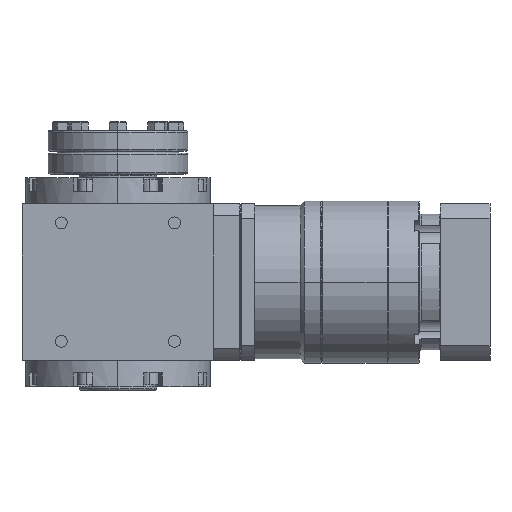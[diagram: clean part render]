
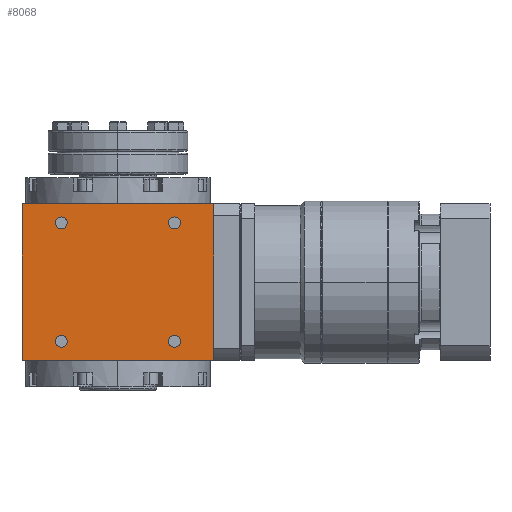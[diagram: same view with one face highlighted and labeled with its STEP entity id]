
A CAD part, left-side view. The second image highlights one B-rep face of the part: STEP entity #8068.
In plain terms, the highlighted planar face has unit normal (-1, 0, 0).
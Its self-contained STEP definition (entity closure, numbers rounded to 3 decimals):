
#47 = CARTESIAN_POINT ( 'NONE',  ( -55., 32.5, -34. ) ) ;
#111 = VECTOR ( 'NONE', #4254, 1000. ) ;
#688 = FACE_OUTER_BOUND ( 'NONE', #15133, .T. ) ;
#832 = DIRECTION ( 'NONE',  ( 0., -1., 0. ) ) ;
#1060 = DIRECTION ( 'NONE',  ( 0., -1., 0. ) ) ;
#1573 = LINE ( 'NONE', #9544, #111 ) ;
#1643 = EDGE_CURVE ( 'NONE', #4069, #16284, #7818, .T. ) ;
#1693 = VERTEX_POINT ( 'NONE', #6505 ) ;
#1739 = AXIS2_PLACEMENT_3D ( 'NONE', #6563, #6740, #3974 ) ;
#1807 = EDGE_CURVE ( 'NONE', #7339, #13281, #1573, .T. ) ;
#1851 = CARTESIAN_POINT ( 'NONE',  ( -55., -35.9, 34. ) ) ;
#1866 = CIRCLE ( 'NONE', #12713, 3.4 ) ;
#1876 = AXIS2_PLACEMENT_3D ( 'NONE', #15755, #8969, #2247 ) ;
#2021 = AXIS2_PLACEMENT_3D ( 'NONE', #17052, #7579, #15982 ) ;
#2112 = CARTESIAN_POINT ( 'NONE',  ( -55., 55., -45. ) ) ;
#2125 = ORIENTED_EDGE ( 'NONE', *, *, #2411, .T. ) ;
#2142 = DIRECTION ( 'NONE',  ( 0., -1., 0. ) ) ;
#2247 = DIRECTION ( 'NONE',  ( 0., -1., 0. ) ) ;
#2285 = VERTEX_POINT ( 'NONE', #8505 ) ;
#2344 = AXIS2_PLACEMENT_3D ( 'NONE', #4922, #14401, #2142 ) ;
#2411 = EDGE_CURVE ( 'NONE', #1693, #15386, #11479, .T. ) ;
#3021 = CARTESIAN_POINT ( 'NONE',  ( -55., -55., -45. ) ) ;
#3192 = VERTEX_POINT ( 'NONE', #3441 ) ;
#3351 = EDGE_LOOP ( 'NONE', ( #4079, #13440 ) ) ;
#3441 = CARTESIAN_POINT ( 'NONE',  ( -55., 29.1, -34. ) ) ;
#3638 = EDGE_LOOP ( 'NONE', ( #12794, #7901 ) ) ;
#3974 = DIRECTION ( 'NONE',  ( 0., -1., 0. ) ) ;
#4069 = VERTEX_POINT ( 'NONE', #6075 ) ;
#4079 = ORIENTED_EDGE ( 'NONE', *, *, #14116, .T. ) ;
#4229 = DIRECTION ( 'NONE',  ( 1., 0., 0. ) ) ;
#4254 = DIRECTION ( 'NONE',  ( 0., -1., 0. ) ) ;
#4325 = ORIENTED_EDGE ( 'NONE', *, *, #4774, .T. ) ;
#4336 = AXIS2_PLACEMENT_3D ( 'NONE', #11032, #4229, #12272 ) ;
#4414 = CARTESIAN_POINT ( 'NONE',  ( -55., -35.9, -34. ) ) ;
#4483 = VECTOR ( 'NONE', #14318, 1000. ) ;
#4738 = CIRCLE ( 'NONE', #16446, 3.4 ) ;
#4774 = EDGE_CURVE ( 'NONE', #12561, #11442, #13194, .T. ) ;
#4808 = VECTOR ( 'NONE', #17216, 1000. ) ;
#4922 = CARTESIAN_POINT ( 'NONE',  ( -55., 32.5, 34. ) ) ;
#5129 = CARTESIAN_POINT ( 'NONE',  ( -55., 55., 45. ) ) ;
#5495 = DIRECTION ( 'NONE',  ( 1., 0., 0. ) ) ;
#5785 = DIRECTION ( 'NONE',  ( 0., 0., 1. ) ) ;
#6075 = CARTESIAN_POINT ( 'NONE',  ( -55., -29.1, 34. ) ) ;
#6198 = EDGE_CURVE ( 'NONE', #3192, #2285, #1866, .T. ) ;
#6313 = DIRECTION ( 'NONE',  ( 0., 0., 1. ) ) ;
#6449 = EDGE_CURVE ( 'NONE', #2285, #3192, #4738, .T. ) ;
#6505 = CARTESIAN_POINT ( 'NONE',  ( -55., 29.1, 34. ) ) ;
#6563 = CARTESIAN_POINT ( 'NONE',  ( -55., -32.5, 34. ) ) ;
#6653 = ORIENTED_EDGE ( 'NONE', *, *, #8628, .T. ) ;
#6740 = DIRECTION ( 'NONE',  ( 1., 0., 0. ) ) ;
#7144 = AXIS2_PLACEMENT_3D ( 'NONE', #2112, #9094, #6313 ) ;
#7339 = VERTEX_POINT ( 'NONE', #5129 ) ;
#7417 = LINE ( 'NONE', #7519, #4483 ) ;
#7484 = CARTESIAN_POINT ( 'NONE',  ( -55., -55., 45. ) ) ;
#7519 = CARTESIAN_POINT ( 'NONE',  ( -55., 55., -45. ) ) ;
#7529 = EDGE_CURVE ( 'NONE', #8764, #13938, #17479, .T. ) ;
#7566 = FACE_BOUND ( 'NONE', #16005, .T. ) ;
#7579 = DIRECTION ( 'NONE',  ( 1., 0., 0. ) ) ;
#7818 = CIRCLE ( 'NONE', #16380, 3.4 ) ;
#7901 = ORIENTED_EDGE ( 'NONE', *, *, #6449, .T. ) ;
#8068 = ADVANCED_FACE ( 'NONE', ( #688, #7566, #15695, #8914, #14370 ), #13024, .T. ) ;
#8505 = CARTESIAN_POINT ( 'NONE',  ( -55., 35.9, -34. ) ) ;
#8628 = EDGE_CURVE ( 'NONE', #16284, #4069, #15721, .T. ) ;
#8764 = VERTEX_POINT ( 'NONE', #12274 ) ;
#8914 = FACE_BOUND ( 'NONE', #3638, .T. ) ;
#8969 = DIRECTION ( 'NONE',  ( 1., 0., 0. ) ) ;
#9094 = DIRECTION ( 'NONE',  ( -1., 0., 0. ) ) ;
#9456 = DIRECTION ( 'NONE',  ( 1., 0., 0. ) ) ;
#9544 = CARTESIAN_POINT ( 'NONE',  ( -55., 0., 45. ) ) ;
#9613 = DIRECTION ( 'NONE',  ( 0., -1., 0. ) ) ;
#9725 = VECTOR ( 'NONE', #5785, 1000. ) ;
#10017 = CIRCLE ( 'NONE', #2021, 3.4 ) ;
#10291 = CARTESIAN_POINT ( 'NONE',  ( -55., -55., -45. ) ) ;
#10361 = EDGE_CURVE ( 'NONE', #15386, #1693, #10017, .T. ) ;
#10600 = CARTESIAN_POINT ( 'NONE',  ( -55., 0., -45. ) ) ;
#11032 = CARTESIAN_POINT ( 'NONE',  ( -55., -32.5, -34. ) ) ;
#11313 = ORIENTED_EDGE ( 'NONE', *, *, #1807, .F. ) ;
#11329 = LINE ( 'NONE', #3021, #9725 ) ;
#11442 = VERTEX_POINT ( 'NONE', #10291 ) ;
#11479 = CIRCLE ( 'NONE', #2344, 3.4 ) ;
#11825 = CARTESIAN_POINT ( 'NONE',  ( -55., 55., -45. ) ) ;
#12222 = EDGE_CURVE ( 'NONE', #11442, #13281, #11329, .T. ) ;
#12272 = DIRECTION ( 'NONE',  ( 0., -1., 0. ) ) ;
#12274 = CARTESIAN_POINT ( 'NONE',  ( -55., -29.1, -34. ) ) ;
#12561 = VERTEX_POINT ( 'NONE', #11825 ) ;
#12713 = AXIS2_PLACEMENT_3D ( 'NONE', #47, #5495, #9613 ) ;
#12794 = ORIENTED_EDGE ( 'NONE', *, *, #6198, .T. ) ;
#13024 = PLANE ( 'NONE',  #7144 ) ;
#13118 = CARTESIAN_POINT ( 'NONE',  ( -55., -32.5, 34. ) ) ;
#13177 = DIRECTION ( 'NONE',  ( 1., 0., 0. ) ) ;
#13194 = LINE ( 'NONE', #10600, #4808 ) ;
#13281 = VERTEX_POINT ( 'NONE', #7484 ) ;
#13440 = ORIENTED_EDGE ( 'NONE', *, *, #7529, .T. ) ;
#13869 = ORIENTED_EDGE ( 'NONE', *, *, #16690, .F. ) ;
#13938 = VERTEX_POINT ( 'NONE', #4414 ) ;
#14069 = CARTESIAN_POINT ( 'NONE',  ( -55., 35.9, 34. ) ) ;
#14116 = EDGE_CURVE ( 'NONE', #13938, #8764, #17306, .T. ) ;
#14318 = DIRECTION ( 'NONE',  ( 0., 0., 1. ) ) ;
#14370 = FACE_BOUND ( 'NONE', #16922, .T. ) ;
#14401 = DIRECTION ( 'NONE',  ( 1., 0., 0. ) ) ;
#14516 = CARTESIAN_POINT ( 'NONE',  ( -55., 32.5, -34. ) ) ;
#15133 = EDGE_LOOP ( 'NONE', ( #13869, #4325, #16370, #11313 ) ) ;
#15386 = VERTEX_POINT ( 'NONE', #14069 ) ;
#15695 = FACE_BOUND ( 'NONE', #3351, .T. ) ;
#15721 = CIRCLE ( 'NONE', #1739, 3.4 ) ;
#15755 = CARTESIAN_POINT ( 'NONE',  ( -55., -32.5, -34. ) ) ;
#15982 = DIRECTION ( 'NONE',  ( 0., -1., 0. ) ) ;
#16005 = EDGE_LOOP ( 'NONE', ( #2125, #16197 ) ) ;
#16197 = ORIENTED_EDGE ( 'NONE', *, *, #10361, .T. ) ;
#16284 = VERTEX_POINT ( 'NONE', #1851 ) ;
#16370 = ORIENTED_EDGE ( 'NONE', *, *, #12222, .T. ) ;
#16380 = AXIS2_PLACEMENT_3D ( 'NONE', #13118, #9456, #1060 ) ;
#16446 = AXIS2_PLACEMENT_3D ( 'NONE', #14516, #13177, #832 ) ;
#16601 = ORIENTED_EDGE ( 'NONE', *, *, #1643, .T. ) ;
#16690 = EDGE_CURVE ( 'NONE', #12561, #7339, #7417, .T. ) ;
#16922 = EDGE_LOOP ( 'NONE', ( #6653, #16601 ) ) ;
#17052 = CARTESIAN_POINT ( 'NONE',  ( -55., 32.5, 34. ) ) ;
#17216 = DIRECTION ( 'NONE',  ( 0., -1., 0. ) ) ;
#17306 = CIRCLE ( 'NONE', #1876, 3.4 ) ;
#17479 = CIRCLE ( 'NONE', #4336, 3.4 ) ;
